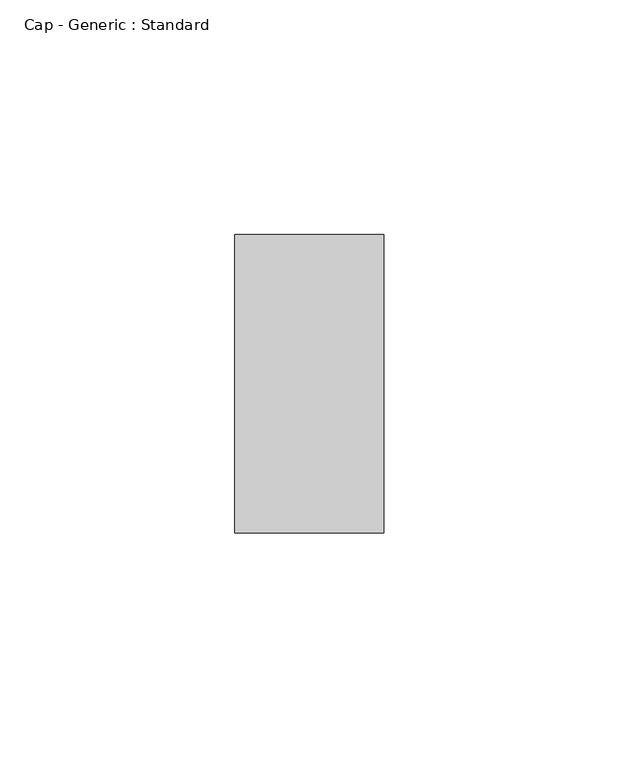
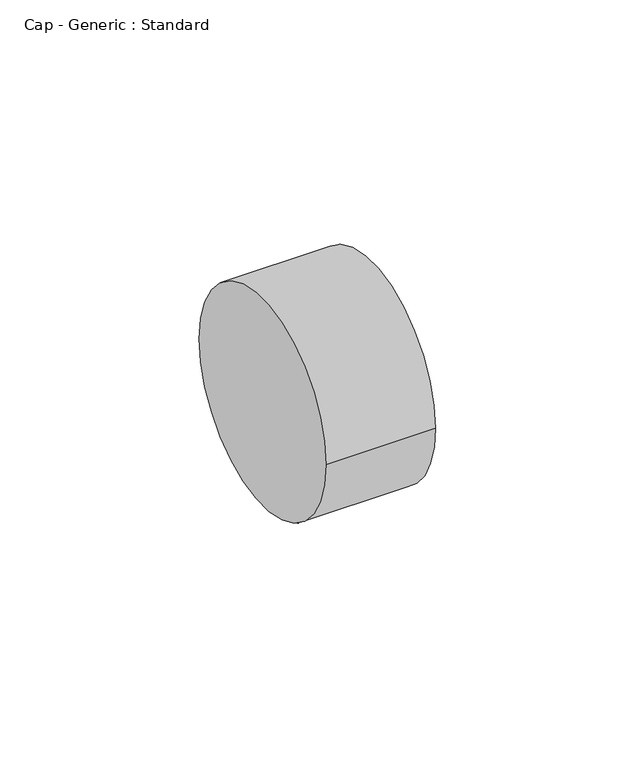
"""IFC4 building model written with IfcOpenShell, lengths in millimetres: pipe fitting geometry, Cap - Generic : Standard."""

from ifc_helpers import new_model, si_unit, point, frame, origin, origin_2d, place, context, project, spatial, circle_curve, trimmed, segment, composite_curve, outline, extrude, source, transform, mapped, element, save


def cap_generic_standard_bf9423ef(model_context):
    return source(origin(), model_context, "Body", "SweptSolid", [
        extrude(outline(composite_curve([segment(trimmed(circle_curve(origin_2d(), 31.75), [point((-31.75, 0.0))], [point((31.75, 0.0))], False, "CARTESIAN"), True, "CONTINUOUS"), segment(trimmed(circle_curve(origin_2d(), 31.75), [point((31.75, 0.0))], [point((-31.75, 0.0))], False, "CARTESIAN"), True, "CONTINUOUS")], self_intersect=False)), frame((0.0, 0.0, 0.0), z_axis=(1.0, 0.0, 0.0), x_axis=(0.0, 1.0, 0.0)), (0.0, 0.0, 1.0), 31.75),
    ])


if __name__ == "__main__":
    model = new_model("IFC4")
    model_context = context("Model", 3, world=origin())
    ifc_project = project(units=[si_unit("LENGTHUNIT", "METRE", prefix="MILLI")], contexts=[model_context])
    site = spatial("IfcSite", under=ifc_project)
    building = spatial("IfcBuilding", under=site)
    placement = place(None, origin())
    cap_generic_standard_shape = cap_generic_standard_bf9423ef(model_context)
    element("IfcPipeFitting", 1, ObjectType="Cap - Generic : Standard", at=placement, inside=building, context=model_context, shape_type="MappedRepresentation", body=[
        mapped(cap_generic_standard_shape, transform((0.0, 0.0, 0.0), x_axis=(1.0, 0.0, 0.0), y_axis=(0.0, 1.0, 0.0), z_axis=(0.0, 0.0, 1.0))),
    ])
    save(model, "model.ifc")
